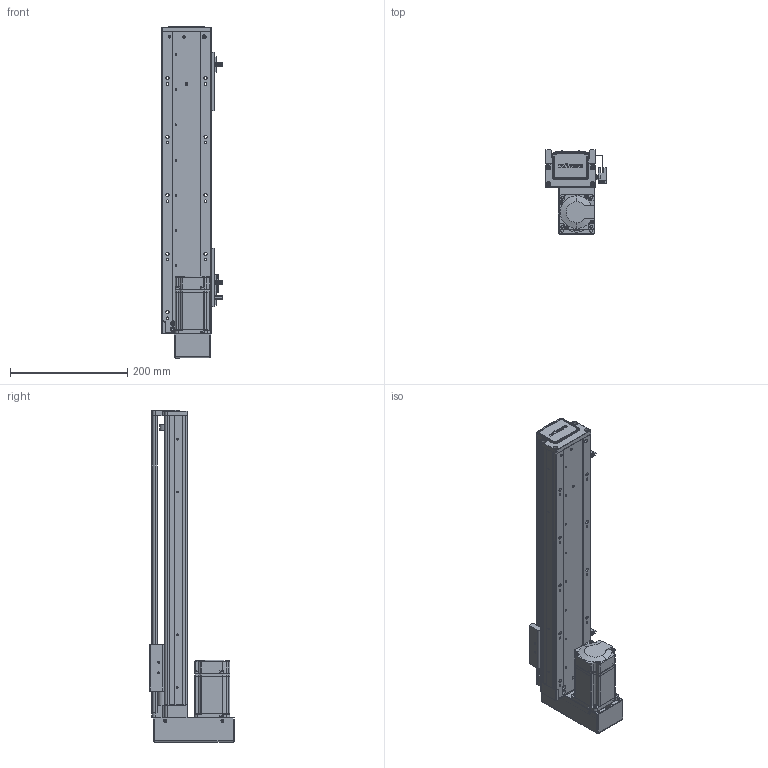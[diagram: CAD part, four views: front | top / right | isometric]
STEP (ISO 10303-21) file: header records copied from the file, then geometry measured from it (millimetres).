
FILE_DESCRIPTION (( 'STEP AP203' ), '1' );
FILE_NAME ('RY80-L1620-300-BK.SLDASM_350.step', '2021-02-20T07:10:30', ( '盈信电脑' ), ( '东莞市道滘镇水果街19号' ), 'SwSTEP 2.0', 'SolidWorks 2012', '' );
FILE_SCHEMA (( 'CONFIG_CONTROL_DESIGN' ));
Length unit declared in the file: millimetre
Products named in the file (15): RY80-L1620-300-BK.SLDASM_350; 滅袉蝶18-24; 侂狟200W萇儂; RY80狟殏俋欶; 1; RY80狟殏萇儂假蚾啣; RY80俋离覜茼え; 覜茼ん672; RY80转接电机端支撑座; T倰羞; RY80綴裔啣; 滅袉蝶18-10; RY80-300蛌諉倰第奻裔啣-BK_350; RY80臏賑輸; RY80-300蛌諉倰第菁釱-BK_350
Assembly tree (17 placements, depth 3):
  RY80-L1620-300-BK.SLDASM_350
    RY80-300蛌諉倰第菁釱-BK_350
    RY80臏賑輸
    RY80-300蛌諉倰第奻裔啣-BK_350
    RY80綴裔啣
    滅袉蝶18-10
    T倰羞  x2
    覜茼ん672  x3
    RY80俋离覜茼え
    RY80转接电机端支撑座
    侂狟200W萇儂
      1
    RY80狟殏萇儂假蚾啣
    RY80狟殏俋欶
    滅袉蝶18-24
Bounding box: 103.7 x 144 x 567 mm (x, y, z)
Volume: 1291626.5 mm3; surface area: 485865.5 mm2
Topology: 16 solids, 16 shells, 2093 faces, 5753 edges, 3727 vertices
Faces by surface type: plane 1156, cylinder 742, cone 133, bspline 62
Entity records: 65967 total; most frequent: CARTESIAN_POINT 16558, ORIENTED_EDGE 10202, DIRECTION 9546, EDGE_CURVE 5101, VERTEX_POINT 3343, VECTOR 3208, LINE 3208, AXIS2_PLACEMENT_3D 3169
